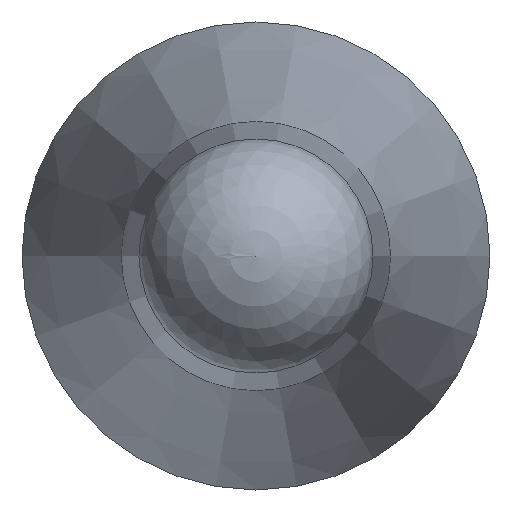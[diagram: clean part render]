
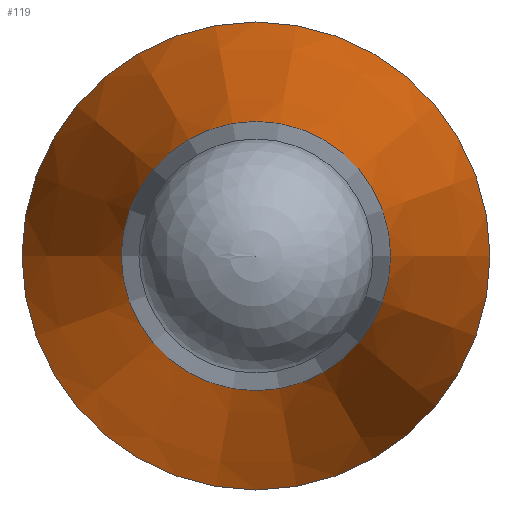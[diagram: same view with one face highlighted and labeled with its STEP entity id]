
A CAD part, left-side view. The second image highlights one B-rep face of the part: STEP entity #119.
In plain terms, the highlighted conical face has half-angle 12 degrees and reference radius 3 mm.
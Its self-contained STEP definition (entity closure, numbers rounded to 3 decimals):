
#97=CONICAL_SURFACE('',#194,3.,12.);
#106=FACE_BOUND('',#134,.T.);
#107=FACE_BOUND('',#135,.T.);
#119=ADVANCED_FACE('',(#106,#107),#97,.T.);
#134=EDGE_LOOP('',(#150));
#135=EDGE_LOOP('',(#151));
#150=ORIENTED_EDGE('',*,*,#172,.T.);
#151=ORIENTED_EDGE('',*,*,#173,.F.);
#164=VERTEX_POINT('',#249);
#165=VERTEX_POINT('',#252);
#172=EDGE_CURVE('',#164,#164,#180,.T.);
#173=EDGE_CURVE('',#165,#165,#181,.T.);
#180=CIRCLE('',#191,1.725);
#181=CIRCLE('',#193,3.);
#191=AXIS2_PLACEMENT_3D('',#248,#215,#216);
#193=AXIS2_PLACEMENT_3D('',#251,#219,#220);
#194=AXIS2_PLACEMENT_3D('',#253,#221,#222);
#215=DIRECTION('',(1.,0.,0.));
#216=DIRECTION('',(0.,1.,0.));
#219=DIRECTION('',(1.,0.,0.));
#220=DIRECTION('',(0.,1.,0.));
#221=DIRECTION('',(1.,0.,0.));
#222=DIRECTION('',(0.,1.,0.));
#248=CARTESIAN_POINT('',(7913.912,6103.288,0.));
#249=CARTESIAN_POINT('',(7913.912,6105.013,0.));
#251=CARTESIAN_POINT('',(7919.91,6103.288,0.));
#252=CARTESIAN_POINT('',(7919.91,6106.288,0.));
#253=CARTESIAN_POINT('',(7919.91,6103.288,0.));
